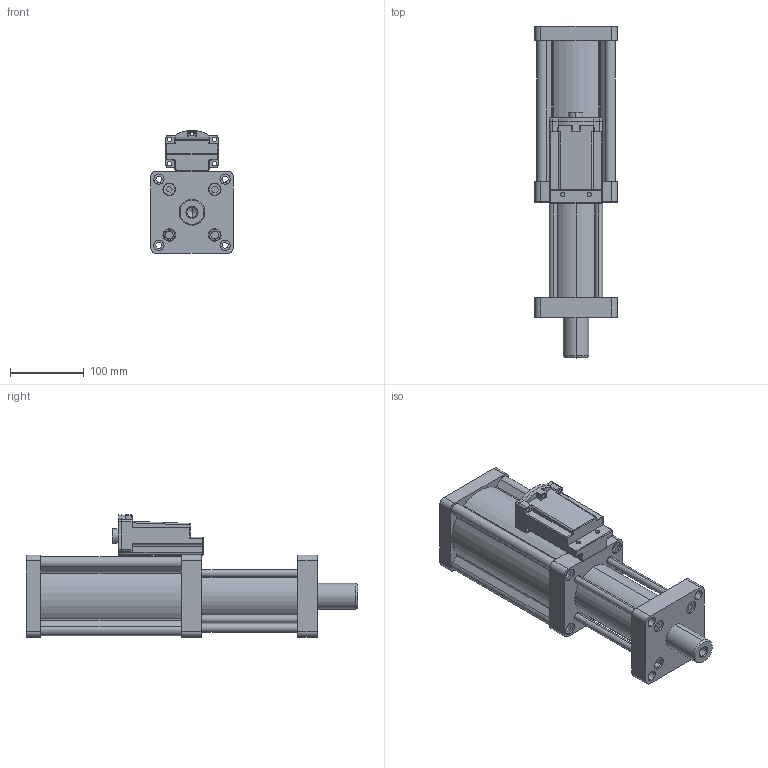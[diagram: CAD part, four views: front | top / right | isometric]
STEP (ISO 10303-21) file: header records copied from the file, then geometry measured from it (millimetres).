
FILE_DESCRIPTION (( 'STEP AP203' ), '1' );
FILE_NAME ('MPTC-63-15-3T.STEP', '2016-03-15T08:01:47', ( 'WIN' ), ( '' ), 'SwSTEP 2.0', 'SolidWorks 2014', '' );
FILE_SCHEMA (( 'CONFIG_CONTROL_DESIGN' ));
Length unit declared in the file: millimetre
Products named in the file (1): MPTC-63-15-3T
Bounding box: 112 x 451 x 166.97 mm (x, y, z)
Surface area: 439477.6 mm2 (no closed solid volume)
Topology: 0 solids, 6 shells, 463 faces, 1154 edges, 740 vertices
Faces by surface type: cylinder 229, plane 195, cone 24, sphere 8, torus 5, bspline 2
Entity records: 14302 total; most frequent: CARTESIAN_POINT 2805, DIRECTION 2499, ORIENTED_EDGE 2253, EDGE_CURVE 1138, AXIS2_PLACEMENT_3D 926, VERTEX_POINT 740, VECTOR 647, LINE 647
